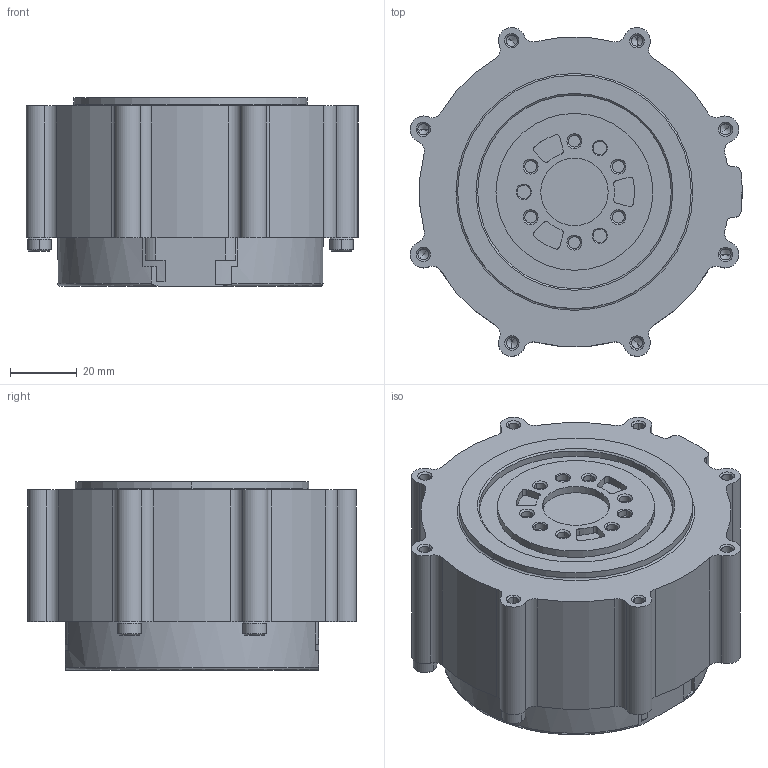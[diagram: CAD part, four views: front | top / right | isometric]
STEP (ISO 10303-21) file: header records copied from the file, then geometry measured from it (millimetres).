
FILE_DESCRIPTION((''),'2;1');
FILE_NAME('3_1_02_090_0073_SW0001','2024-08-28T11:38:47',('zhanglf'),(''),'CREO PARAMETRIC BY PTC INC, 2017110','CREO PARAMETRIC BY PTC INC, 2017110','');
FILE_SCHEMA(('CONFIG_CONTROL_DESIGN'));
Length unit declared in the file: millimetre
Products named in the file (1): 3_1_02_090_0073_SW0001
Bounding box: 99.48 x 98.53 x 56.6 mm (x, y, z)
Volume: 353998.6 mm3; surface area: 55930.1 mm2
Topology: 1 solids, 2 shells, 350 faces, 875 edges, 540 vertices
Faces by surface type: cylinder 152, plane 107, cone 85, torus 4, bspline 2
Entity records: 10561 total; most frequent: CARTESIAN_POINT 1986, DIRECTION 1924, ORIENTED_EDGE 1698, EDGE_CURVE 849, AXIS2_PLACEMENT_3D 743, VERTEX_POINT 540, VECTOR 438, LINE 438
